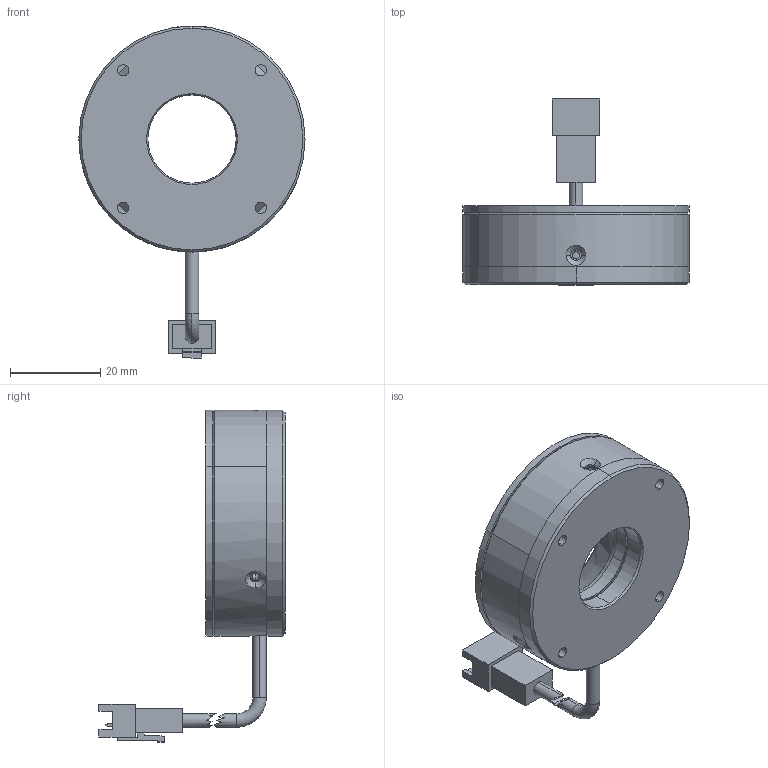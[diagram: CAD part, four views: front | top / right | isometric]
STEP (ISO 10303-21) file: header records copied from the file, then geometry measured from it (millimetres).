
FILE_DESCRIPTION (( 'STEP AP203' ), '1' );
FILE_NAME ('CRT-RL5030-¼òÒ×3DÍ¼.STEP', '2021-12-14T08:54:19', ( 'Admin' ), ( '' ), 'SwSTEP 2.0', 'SolidWorks 2018', '' );
FILE_SCHEMA (( 'CONFIG_CONTROL_DESIGN' ));
Length unit declared in the file: millimetre
Products named in the file (1): CRT-RL5030-潠眢3D芞
Bounding box: 50 x 41.15 x 73.4 mm (x, y, z)
Surface area: 12906.9 mm2 (no closed solid volume)
Topology: 0 solids, 6 shells, 167 faces, 462 edges, 302 vertices
Faces by surface type: plane 85, cylinder 51, cone 24, torus 6, bspline 1
Entity records: 6241 total; most frequent: CARTESIAN_POINT 1958, DIRECTION 860, ORIENTED_EDGE 851, EDGE_CURVE 462, VERTEX_POINT 302, AXIS2_PLACEMENT_3D 294, LINE 272, VECTOR 272
